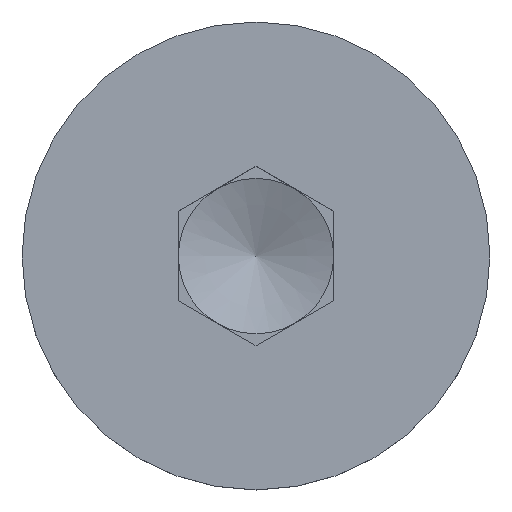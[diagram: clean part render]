
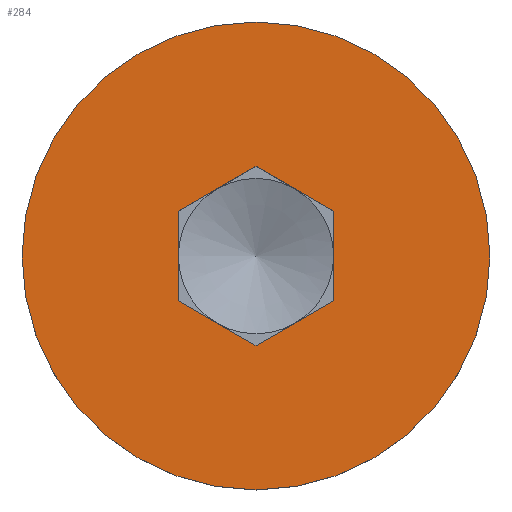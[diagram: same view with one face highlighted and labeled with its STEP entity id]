
A CAD part, top view. The second image highlights one B-rep face of the part: STEP entity #284.
In plain terms, the highlighted planar face has unit normal (0, 0, 1).
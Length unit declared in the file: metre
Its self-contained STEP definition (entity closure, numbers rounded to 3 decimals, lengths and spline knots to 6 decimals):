
#29=LINE('',#469,#53);
#30=LINE('',#472,#54);
#31=LINE('',#474,#55);
#32=LINE('',#476,#56);
#33=LINE('',#478,#57);
#34=LINE('',#480,#58);
#53=VECTOR('',#380,1.);
#54=VECTOR('',#381,1.);
#55=VECTOR('',#382,1.);
#56=VECTOR('',#383,1.);
#57=VECTOR('',#384,1.);
#58=VECTOR('',#385,1.);
#82=ORIENTED_EDGE('',*,*,#154,.F.);
#83=ORIENTED_EDGE('',*,*,#155,.T.);
#84=ORIENTED_EDGE('',*,*,#156,.T.);
#85=ORIENTED_EDGE('',*,*,#157,.T.);
#86=ORIENTED_EDGE('',*,*,#158,.T.);
#87=ORIENTED_EDGE('',*,*,#159,.T.);
#88=ORIENTED_EDGE('',*,*,#160,.T.);
#154=EDGE_CURVE('',#186,#186,#205,.T.);
#155=EDGE_CURVE('',#187,#188,#29,.T.);
#156=EDGE_CURVE('',#188,#189,#30,.T.);
#157=EDGE_CURVE('',#189,#190,#31,.T.);
#158=EDGE_CURVE('',#190,#191,#32,.T.);
#159=EDGE_CURVE('',#191,#192,#33,.T.);
#160=EDGE_CURVE('',#192,#187,#34,.T.);
#186=VERTEX_POINT('',#468);
#187=VERTEX_POINT('',#470);
#188=VERTEX_POINT('',#471);
#189=VERTEX_POINT('',#473);
#190=VERTEX_POINT('',#475);
#191=VERTEX_POINT('',#477);
#192=VERTEX_POINT('',#479);
#205=CIRCLE('',#323,0.003765);
#217=EDGE_LOOP('',(#82));
#218=EDGE_LOOP('',(#83,#84,#85,#86,#87,#88));
#243=FACE_BOUND('',#217,.T.);
#244=FACE_BOUND('',#218,.T.);
#270=PLANE('',#322);
#284=ADVANCED_FACE('',(#243,#244),#270,.F.);
#322=AXIS2_PLACEMENT_3D('',#466,#376,#377);
#323=AXIS2_PLACEMENT_3D('',#467,#378,#379);
#376=DIRECTION('',(0.,0.,-1.));
#377=DIRECTION('',(-1.,0.,0.));
#378=DIRECTION('',(0.,0.,-1.));
#379=DIRECTION('',(-1.,0.,0.));
#380=DIRECTION('',(0.866,-0.5,0.));
#381=DIRECTION('',(0.,-1.,0.));
#382=DIRECTION('',(-0.866,-0.5,0.));
#383=DIRECTION('',(-0.866,0.5,0.));
#384=DIRECTION('',(0.,1.,0.));
#385=DIRECTION('',(0.866,0.5,0.));
#466=CARTESIAN_POINT('',(-0.001385,0.,0.));
#467=CARTESIAN_POINT('',(0.,0.,0.));
#468=CARTESIAN_POINT('',(-0.003765,0.,0.));
#469=CARTESIAN_POINT('',(0.000625,0.001083,0.));
#470=CARTESIAN_POINT('',(0.,0.001443,0.));
#471=CARTESIAN_POINT('',(0.00125,0.000722,0.));
#472=CARTESIAN_POINT('',(0.00125,0.,0.));
#473=CARTESIAN_POINT('',(0.00125,-0.000722,0.));
#474=CARTESIAN_POINT('',(0.000625,-0.001083,0.));
#475=CARTESIAN_POINT('',(0.,-0.001443,0.));
#476=CARTESIAN_POINT('',(-0.000625,-0.001083,0.));
#477=CARTESIAN_POINT('',(-0.00125,-0.000722,0.));
#478=CARTESIAN_POINT('',(-0.00125,0.,0.));
#479=CARTESIAN_POINT('',(-0.00125,0.000722,0.));
#480=CARTESIAN_POINT('',(-0.000625,0.001083,0.));
